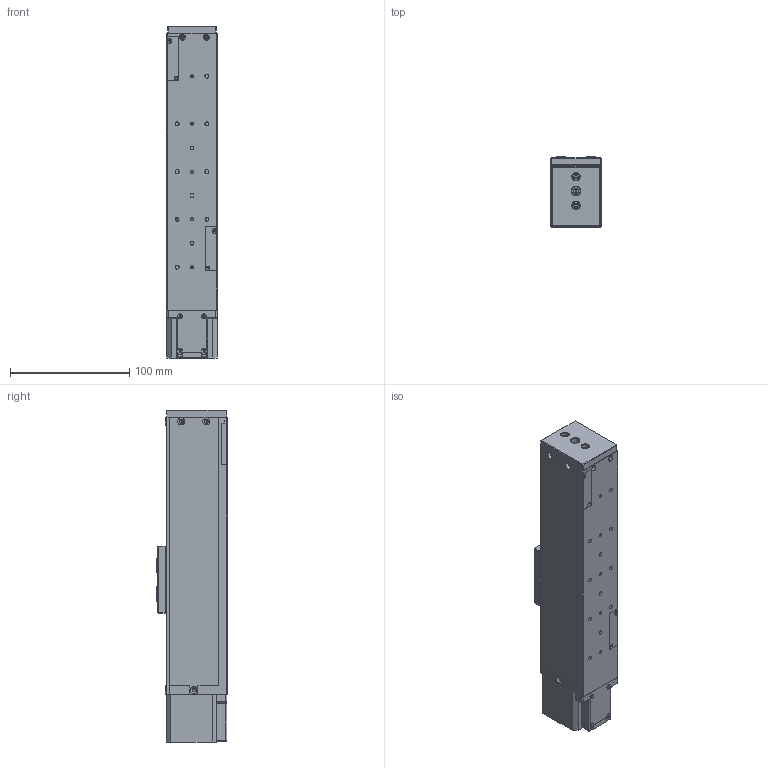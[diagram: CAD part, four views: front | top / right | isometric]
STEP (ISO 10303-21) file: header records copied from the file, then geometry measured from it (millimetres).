
FILE_DESCRIPTION (( 'STEP AP203' ), '1' );
FILE_NAME ('EMF42A40-B05P150.STEP', '2023-10-28T06:16:40', ( '' ), ( '' ), 'SwSTEP 2.0', 'SolidWorks 2023', '' );
FILE_SCHEMA (( 'CONFIG_CONTROL_DESIGN' ));
Length unit declared in the file: millimetre
Products named in the file (21): 42轴承调节组件; 28-42前导光片; EMF42A40-B05P150; 42-150防尘钢带底板; 28-42端子线路板; 0805螺母; 42防尘钢带压片; MGN15-214导轨; 42-150分体侧板; JFM0507-05; MGN15C滑块; 42轴承调节块; 42光电分体轴承座; 42-150防尘钢带; 42A40端子盖; 42-150光电滑台分体基座; 28-42后导光片; 42防尘安装板; 42防尘安装座; 42A40-GZ0805-232电机; 42防尘罩
Assembly tree (22 placements, depth 3):
  EMF42A40-B05P150
    42-150光电滑台分体基座
    MGN15-214导轨
    MGN15C滑块
    42轴承调节组件
      42光电分体轴承座
      42轴承调节块
      JFM0507-05
    42A40-GZ0805-232电机
    42-150分体侧板  x2
    28-42前导光片
    28-42后导光片
    42A40端子盖
    28-42端子线路板
    42防尘安装座
    0805螺母
    42防尘安装板
    42-150防尘钢带底板
    42防尘罩
    42-150防尘钢带
    42防尘钢带压片  x2
Bounding box: 42 x 59 x 278 mm (x, y, z)
Volume: 333216.1 mm3; surface area: 176256.3 mm2
Topology: 21 solids, 21 shells, 1150 faces, 3049 edges, 1916 vertices
Faces by surface type: cylinder 578, plane 410, cone 113, torus 39, bspline 6, sphere 4
Entity records: 55773 total; most frequent: CARTESIAN_POINT 25649, DIRECTION 5968, ORIENTED_EDGE 5746, EDGE_CURVE 2873, AXIS2_PLACEMENT_3D 2185, VERTEX_POINT 1846, LINE 1598, VECTOR 1598
